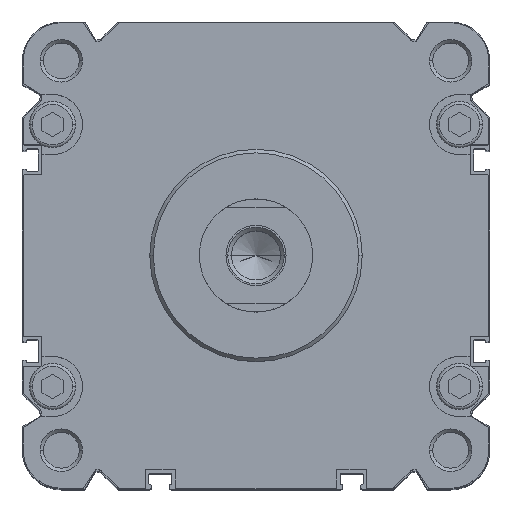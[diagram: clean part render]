
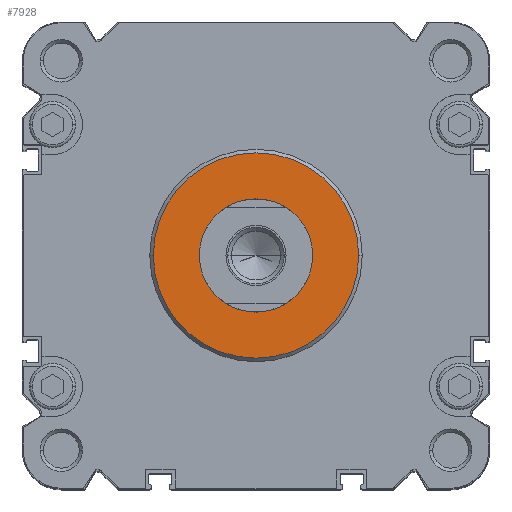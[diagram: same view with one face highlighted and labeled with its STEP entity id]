
A CAD part, top view. The second image highlights one B-rep face of the part: STEP entity #7928.
In plain terms, the highlighted planar face has unit normal (0, 0, 1).
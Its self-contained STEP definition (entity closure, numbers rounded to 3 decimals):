
#288 = CARTESIAN_POINT ( 'NONE',  ( 0., 0., 4. ) ) ;
#480 = EDGE_CURVE ( 'NONE', #10972, #992, #593, .T. ) ;
#593 = CIRCLE ( 'NONE', #3661, 16. ) ;
#758 = FACE_OUTER_BOUND ( 'NONE', #19448, .T. ) ;
#992 = VERTEX_POINT ( 'NONE', #2759 ) ;
#2048 = PLANE ( 'NONE',  #5408 ) ;
#2149 = DIRECTION ( 'NONE',  ( -1., 0., 0. ) ) ;
#2427 = EDGE_CURVE ( 'NONE', #5608, #11924, #19824, .T. ) ;
#2693 = ORIENTED_EDGE ( 'NONE', *, *, #16967, .F. ) ;
#2743 = EDGE_CURVE ( 'NONE', #992, #10972, #13689, .T. ) ;
#2759 = CARTESIAN_POINT ( 'NONE',  ( -16., 0., 4. ) ) ;
#3661 = AXIS2_PLACEMENT_3D ( 'NONE', #4507, #20530, #4615 ) ;
#3756 = DIRECTION ( 'NONE',  ( 0., 0., 1. ) ) ;
#4480 = AXIS2_PLACEMENT_3D ( 'NONE', #8291, #21118, #19621 ) ;
#4507 = CARTESIAN_POINT ( 'NONE',  ( 0., 0., 4. ) ) ;
#4615 = DIRECTION ( 'NONE',  ( 1., 0., 0. ) ) ;
#5366 = FACE_BOUND ( 'NONE', #8851, .T. ) ;
#5408 = AXIS2_PLACEMENT_3D ( 'NONE', #18396, #3756, #2149 ) ;
#5608 = VERTEX_POINT ( 'NONE', #7637 ) ;
#7637 = CARTESIAN_POINT ( 'NONE',  ( -29., 0., 4. ) ) ;
#7928 = ADVANCED_FACE ( 'NONE', ( #758, #5366 ), #2048, .T. ) ;
#8291 = CARTESIAN_POINT ( 'NONE',  ( 0., 0., 4. ) ) ;
#8851 = EDGE_LOOP ( 'NONE', ( #19899, #16637 ) ) ;
#9553 = DIRECTION ( 'NONE',  ( 0., 0., -1. ) ) ;
#10239 = DIRECTION ( 'NONE',  ( 0., 0., -1. ) ) ;
#10972 = VERTEX_POINT ( 'NONE', #19347 ) ;
#11040 = CARTESIAN_POINT ( 'NONE',  ( 0., 0., 4. ) ) ;
#11767 = AXIS2_PLACEMENT_3D ( 'NONE', #11040, #9553, #16173 ) ;
#11919 = CARTESIAN_POINT ( 'NONE',  ( 29., 0., 4. ) ) ;
#11924 = VERTEX_POINT ( 'NONE', #11919 ) ;
#13689 = CIRCLE ( 'NONE', #4480, 16. ) ;
#13761 = DIRECTION ( 'NONE',  ( 1., 0., 0. ) ) ;
#16173 = DIRECTION ( 'NONE',  ( 1., 0., 0. ) ) ;
#16637 = ORIENTED_EDGE ( 'NONE', *, *, #2743, .T. ) ;
#16893 = CIRCLE ( 'NONE', #11767, 29. ) ;
#16967 = EDGE_CURVE ( 'NONE', #11924, #5608, #16893, .T. ) ;
#17777 = AXIS2_PLACEMENT_3D ( 'NONE', #288, #10239, #13761 ) ;
#17971 = ORIENTED_EDGE ( 'NONE', *, *, #2427, .F. ) ;
#18396 = CARTESIAN_POINT ( 'NONE',  ( 0., -29., 4. ) ) ;
#19347 = CARTESIAN_POINT ( 'NONE',  ( 16., 0., 4. ) ) ;
#19448 = EDGE_LOOP ( 'NONE', ( #2693, #17971 ) ) ;
#19621 = DIRECTION ( 'NONE',  ( 1., 0., 0. ) ) ;
#19824 = CIRCLE ( 'NONE', #17777, 29. ) ;
#19899 = ORIENTED_EDGE ( 'NONE', *, *, #480, .T. ) ;
#20530 = DIRECTION ( 'NONE',  ( 0., 0., -1. ) ) ;
#21118 = DIRECTION ( 'NONE',  ( 0., 0., -1. ) ) ;
